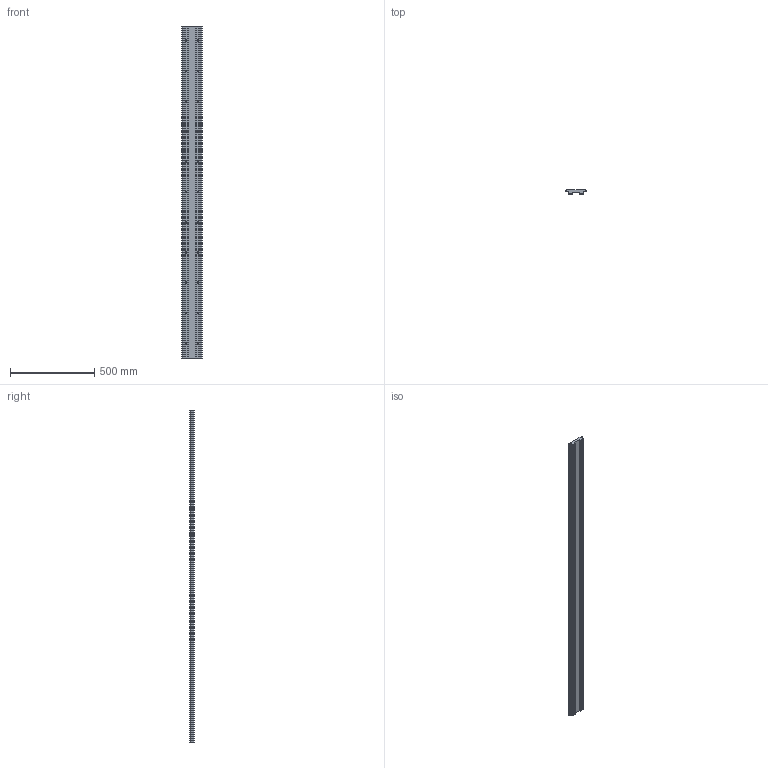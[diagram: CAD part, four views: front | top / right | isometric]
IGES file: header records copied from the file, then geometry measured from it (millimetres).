
Start section: 3D InterOp IGES (v. 2019 1.0.2), Spatial Corp. Copyright (c) 1999-2017.
Global section: file name: NL120 L1976 P1.igs; native system: Spatial Corp.; preprocessor: 3D InterOp GENERIC/IGES 3.0; author: Noname; organization: Noname; date: 20220704.105720; units: millimetre
Bounding box: 119.61 x 24 x 1976 mm (x, y, z)
Surface area: 606885.1 mm2 (no closed solid volume)
Topology: 0 solids, 0 shells, 148 faces, 744 edges, 744 vertices
Faces by surface type: revolution 100, extrusion 48
